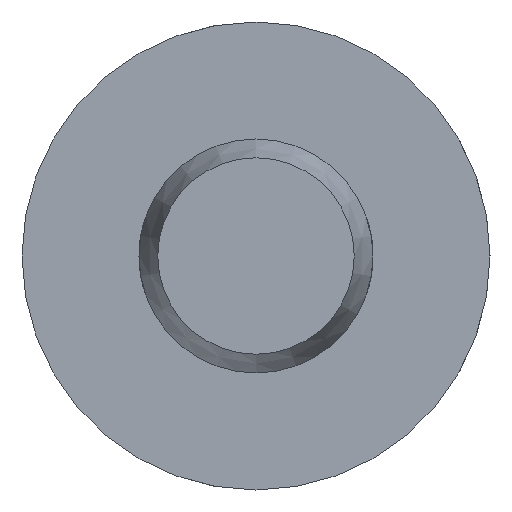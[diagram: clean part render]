
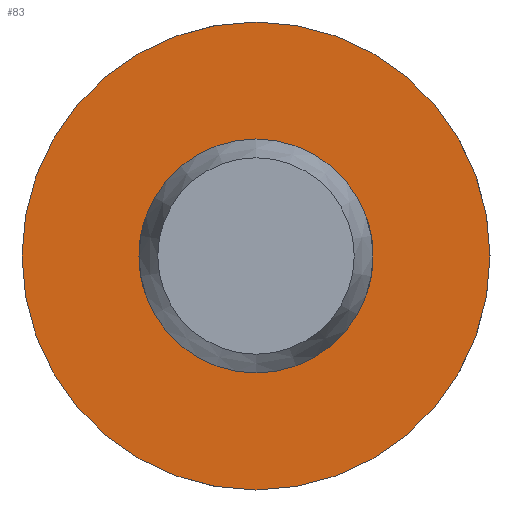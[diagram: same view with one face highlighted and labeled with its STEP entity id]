
A CAD part, left-side view. The second image highlights one B-rep face of the part: STEP entity #83.
In plain terms, the highlighted planar face has unit normal (-1, 0, 0).
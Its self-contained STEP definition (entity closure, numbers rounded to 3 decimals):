
#83 = ADVANCED_FACE( '', ( #129, #130 ), #131, .F. );
#129 = FACE_OUTER_BOUND( '', #208, .T. );
#130 = FACE_BOUND( '', #209, .T. );
#131 = PLANE( '', #210 );
#208 = EDGE_LOOP( '', ( #325 ) );
#209 = EDGE_LOOP( '', ( #326 ) );
#210 = AXIS2_PLACEMENT_3D( '', #327, #328, #329 );
#325 = ORIENTED_EDGE( '', *, *, #493, .F. );
#326 = ORIENTED_EDGE( '', *, *, #483, .T. );
#327 = CARTESIAN_POINT( '', ( 56., 2.5, 0. ) );
#328 = DIRECTION( '', ( 1., 0., 0. ) );
#329 = DIRECTION( '', ( 0., 0., -1. ) );
#483 = EDGE_CURVE( '', #554, #554, #555, .T. );
#493 = EDGE_CURVE( '', #572, #572, #573, .T. );
#554 = VERTEX_POINT( '', #741 );
#555 = CIRCLE( '', #742, 2.5 );
#572 = VERTEX_POINT( '', #842 );
#573 = CIRCLE( '', #843, 5. );
#741 = CARTESIAN_POINT( '', ( 56., 0., -2.5 ) );
#742 = AXIS2_PLACEMENT_3D( '', #906, #907, #908 );
#842 = CARTESIAN_POINT( '', ( 56., 0., -5. ) );
#843 = AXIS2_PLACEMENT_3D( '', #927, #928, #929 );
#906 = CARTESIAN_POINT( '', ( 56., 0., 0. ) );
#907 = DIRECTION( '', ( 1., 0., 0. ) );
#908 = DIRECTION( '', ( 0., 0., -1. ) );
#927 = CARTESIAN_POINT( '', ( 56., 0., 0. ) );
#928 = DIRECTION( '', ( 1., 0., 0. ) );
#929 = DIRECTION( '', ( 0., 0., -1. ) );
